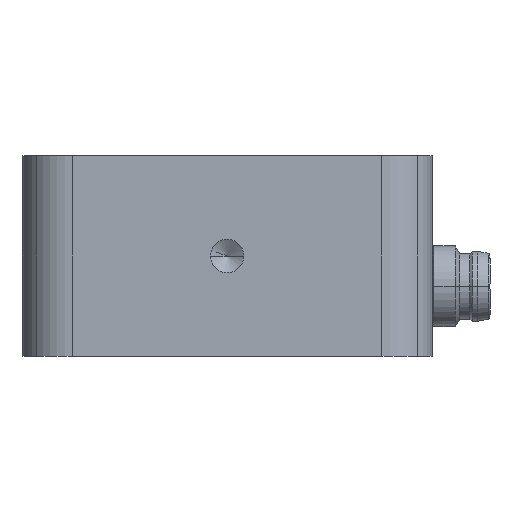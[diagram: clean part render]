
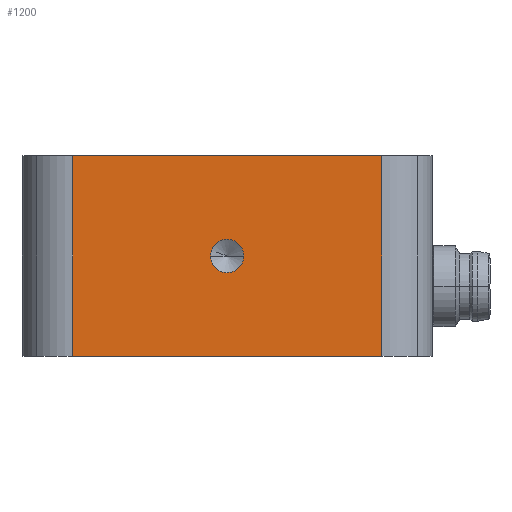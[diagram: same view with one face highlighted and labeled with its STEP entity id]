
A CAD part, left-side view. The second image highlights one B-rep face of the part: STEP entity #1200.
In plain terms, the highlighted planar face has unit normal (-1, 0, 0).
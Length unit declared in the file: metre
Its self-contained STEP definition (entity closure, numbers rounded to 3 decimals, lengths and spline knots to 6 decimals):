
#1200=ADVANCED_FACE('0:10111',(#2542,#2543),#2544,.T.);
#2542=FACE_OUTER_BOUND('',#3725,.T.);
#2543=FACE_BOUND('',#3726,.T.);
#2544=PLANE('',#3727);
#3725=EDGE_LOOP('',(#6556,#6557,#6558,#6559));
#3726=EDGE_LOOP('',(#6560,#6561));
#3727=AXIS2_PLACEMENT_3D('',#6562,#6563,#6564);
#6556=ORIENTED_EDGE('',*,*,#7499,.F.);
#6557=ORIENTED_EDGE('',*,*,#8073,.T.);
#6558=ORIENTED_EDGE('',*,*,#8066,.F.);
#6559=ORIENTED_EDGE('',*,*,#8074,.T.);
#6560=ORIENTED_EDGE('',*,*,#8043,.T.);
#6561=ORIENTED_EDGE('',*,*,#7527,.T.);
#6562=CARTESIAN_POINT('',(-0.0921,0.0,0.0));
#6563=DIRECTION('',(-1.0,0.0,0.0));
#6564=DIRECTION('',(0.0,0.0,1.0));
#7499=EDGE_CURVE('0:11758',#9722,#9724,#9725,.T.);
#7527=EDGE_CURVE('0:11683',#9773,#9776,#9778,.T.);
#8043=EDGE_CURVE('0:11683',#9776,#9773,#10628,.T.);
#8066=EDGE_CURVE('0:11776',#10664,#10666,#10667,.T.);
#8073=EDGE_CURVE('0:11821',#9722,#10666,#10674,.T.);
#8074=EDGE_CURVE('0:11824',#10664,#9724,#10675,.F.);
#9722=VERTEX_POINT('',#11155);
#9724=VERTEX_POINT('',#11157);
#9725=LINE('',#11158,#11159);
#9773=VERTEX_POINT('',#11219);
#9776=VERTEX_POINT('',#11223);
#9778=CIRCLE('',#11226,0.00165);
#10628=CIRCLE('',#12860,0.00165);
#10664=VERTEX_POINT('',#12903);
#10666=VERTEX_POINT('',#12905);
#10667=LINE('',#12906,#12907);
#10674=LINE('',#12918,#12919);
#10675=LINE('',#12920,#12921);
#11155=CARTESIAN_POINT('',(-0.0921,0.0153,0.0));
#11157=CARTESIAN_POINT('',(-0.0921,0.0153,0.0198));
#11158=CARTESIAN_POINT('',(-0.0921,0.0153,0.0));
#11159=VECTOR('',#13607,1.0);
#11219=CARTESIAN_POINT('',(-0.0921,0.00165,0.0099));
#11223=CARTESIAN_POINT('',(-0.0921,-0.00165,0.0099));
#11226=AXIS2_PLACEMENT_3D('',#13661,#13662,#13663);
#12860=AXIS2_PLACEMENT_3D('',#14436,#14437,#14438);
#12903=CARTESIAN_POINT('',(-0.0921,-0.0153,0.0198));
#12905=CARTESIAN_POINT('',(-0.0921,-0.0153,0.0));
#12906=CARTESIAN_POINT('',(-0.0921,-0.0153,0.0));
#12907=VECTOR('',#14491,1.0);
#12918=CARTESIAN_POINT('',(-0.0921,0.0,0.0));
#12919=VECTOR('',#14502,1.0);
#12920=CARTESIAN_POINT('',(-0.0921,0.0,0.0198));
#12921=VECTOR('',#14503,1.0);
#13607=DIRECTION('',(0.0,-0.0,1.0));
#13661=CARTESIAN_POINT('',(-0.0921,0.0,0.0099));
#13662=DIRECTION('',(1.0,0.0,-0.0));
#13663=DIRECTION('',(0.0,1.0,0.));
#14436=CARTESIAN_POINT('',(-0.0921,0.0,0.0099));
#14437=DIRECTION('',(1.0,0.0,-0.0));
#14438=DIRECTION('',(0.0,1.0,0.));
#14491=DIRECTION('',(-0.0,-0.0,-1.0));
#14502=DIRECTION('',(-0.0,-1.0,-0.0));
#14503=DIRECTION('',(-0.0,-1.0,-0.0));
